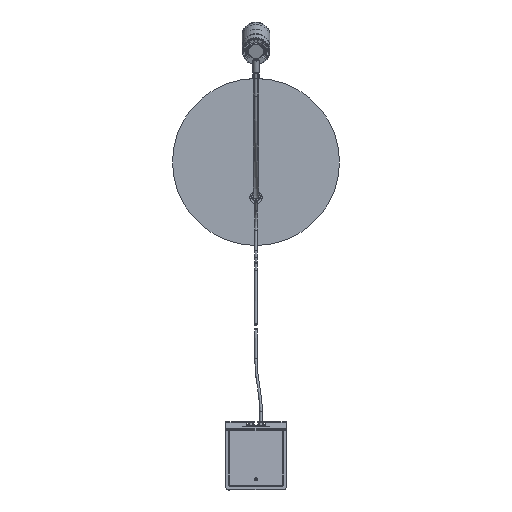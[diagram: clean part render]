
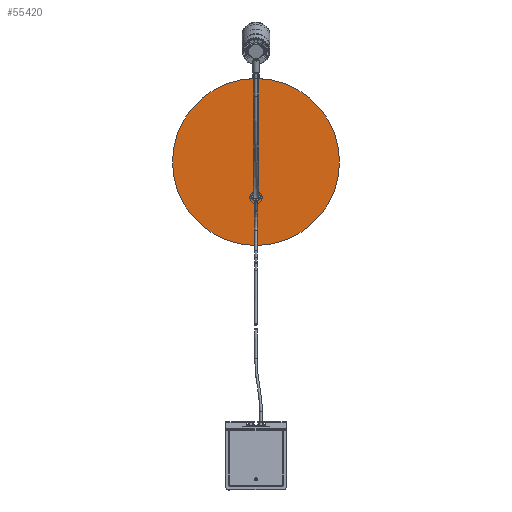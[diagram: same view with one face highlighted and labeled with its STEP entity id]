
A CAD part, top view. The second image highlights one B-rep face of the part: STEP entity #55420.
In plain terms, the highlighted planar face has unit normal (0, 0, 1).
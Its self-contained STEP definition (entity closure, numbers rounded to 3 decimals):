
#3914=FACE_BOUND('',#10341,.T.);
#6978=FACE_OUTER_BOUND('',#10340,.T.);
#10340=EDGE_LOOP('',(#49738));
#10341=EDGE_LOOP('',(#49739));
#12348=CIRCLE('',#60589,165.);
#12351=CIRCLE('',#60594,6.25);
#26323=VERTEX_POINT('',#117526);
#26326=VERTEX_POINT('',#117535);
#34132=EDGE_CURVE('',#26323,#26323,#12348,.T.);
#34137=EDGE_CURVE('',#26326,#26326,#12351,.T.);
#49738=ORIENTED_EDGE('',*,*,#34132,.T.);
#49739=ORIENTED_EDGE('',*,*,#34137,.T.);
#51394=PLANE('',#60595);
#55420=ADVANCED_FACE('',(#6978,#3914),#51394,.T.);
#60589=AXIS2_PLACEMENT_3D('',#117527,#75329,#75330);
#60594=AXIS2_PLACEMENT_3D('',#117537,#75341,#75342);
#60595=AXIS2_PLACEMENT_3D('',#117538,#75343,#75344);
#75329=DIRECTION('center_axis',(0.,0.,1.));
#75330=DIRECTION('ref_axis',(1.,0.,0.));
#75341=DIRECTION('center_axis',(0.,0.,-1.));
#75342=DIRECTION('ref_axis',(1.,0.,0.));
#75343=DIRECTION('center_axis',(0.,0.,1.));
#75344=DIRECTION('ref_axis',(1.,0.,0.));
#117526=CARTESIAN_POINT('',(-165.,0.,0.));
#117527=CARTESIAN_POINT('Origin',(0.,0.,
0.));
#117535=CARTESIAN_POINT('',(-6.25,70.,0.));
#117537=CARTESIAN_POINT('Origin',(0.,70.,0.));
#117538=CARTESIAN_POINT('Origin',(0.,-27.5,0.));
